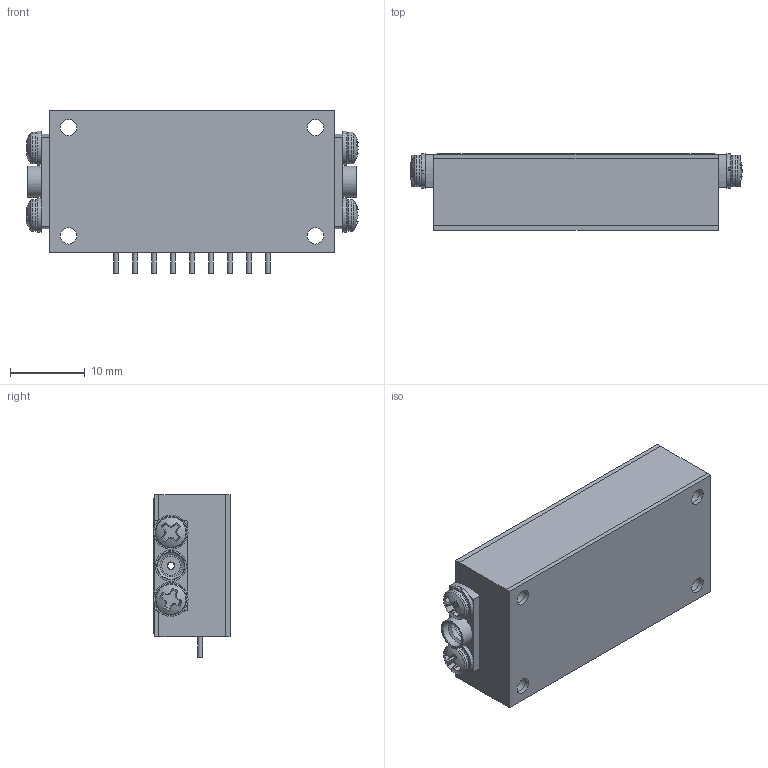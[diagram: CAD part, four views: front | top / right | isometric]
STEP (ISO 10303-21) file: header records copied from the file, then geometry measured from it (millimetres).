
FILE_DESCRIPTION (( 'STEP AP214' ), '1' );
FILE_NAME ('DTA-2G18G-31D5-6-SMP.STEP', '2026-08-12T17:25:45', ( '' ), ( '' ), 'SwSTEP 2.0', 'SolidWorks 2025', '' );
FILE_SCHEMA (( 'AUTOMOTIVE_DESIGN' ));
Length unit declared in the file: inch
Products named in the file (1): DTA-2G18G-31D5-6-SMP
Bounding box: 44.41 x 10.21 x 21.79 mm (x, y, z)
Volume: 7410.4 mm3; surface area: 8311.9 mm2
Topology: 23 solids, 23 shells, 612 faces, 2174 edges, 1805 vertices
Faces by surface type: plane 339, cylinder 177, torus 62, cone 30, sphere 4
Full cylindrical faces by diameter (mm): 0.635 x18, 0.889 x1, 1.016 x2, 1.321 x9, 1.676 x2, 1.778 x4, 1.93 x9, 2.032 x2, 2.057 x9, 2.184 x20, 2.464 x9, 2.54 x2, 2.616 x4, 2.946 x2, 3.175 x2, 3.607 x2, 3.937 x2, 4.166 x2, 4.242 x4
Entity records: 34602 total; most frequent: CARTESIAN_POINT 9293, ORIENTED_EDGE 3938, DIRECTION 3284, EDGE_CURVE 1969, VERTEX_POINT 1781, AXIS2_PLACEMENT_3D 1152, EDGE_LOOP 1028, VECTOR 980
